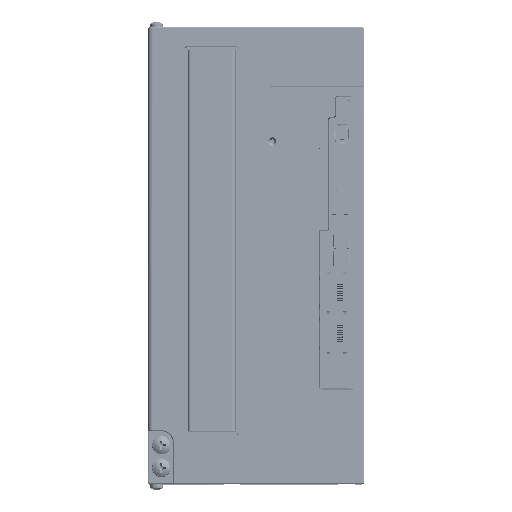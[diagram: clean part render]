
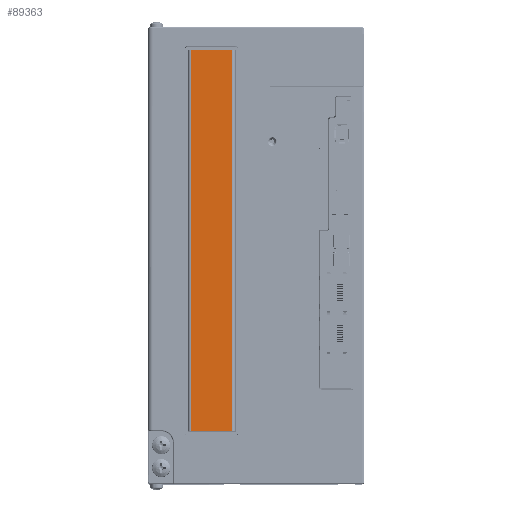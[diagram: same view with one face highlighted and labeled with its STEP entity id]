
A CAD part, top view. The second image highlights one B-rep face of the part: STEP entity #89363.
In plain terms, the highlighted planar face has unit normal (0, 0, 1).
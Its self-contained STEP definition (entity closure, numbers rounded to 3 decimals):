
#37195 = EDGE_CURVE ( 'NONE', #104793, #223532, #258459, .T. ) ;
#43177 = EDGE_CURVE ( 'NONE', #223532, #128426, #360696, .T. ) ;
#64901 = LINE ( 'NONE', #326250, #205746 ) ;
#68721 = VECTOR ( 'NONE', #309329, 1000. ) ;
#75670 = FACE_OUTER_BOUND ( 'NONE', #349316, .T. ) ;
#75963 = ORIENTED_EDGE ( 'NONE', *, *, #43177, .T. ) ;
#79833 = CARTESIAN_POINT ( 'NONE',  ( 36.15, 23., 194.2 ) ) ;
#89363 = ADVANCED_FACE ( 'NONE', ( #75670 ), #359729, .F. ) ;
#89530 = VERTEX_POINT ( 'NONE', #182560 ) ;
#99656 = DIRECTION ( 'NONE',  ( 0., 1., 0. ) ) ;
#102032 = DIRECTION ( 'NONE',  ( 0., 0., -1. ) ) ;
#104793 = VERTEX_POINT ( 'NONE', #182217 ) ;
#104884 = DIRECTION ( 'NONE',  ( -1., 0., 0. ) ) ;
#117392 = AXIS2_PLACEMENT_3D ( 'NONE', #190387, #102032, #216726 ) ;
#118594 = CARTESIAN_POINT ( 'NONE',  ( 36.15, 190., 194.2 ) ) ;
#128426 = VERTEX_POINT ( 'NONE', #323057 ) ;
#182217 = CARTESIAN_POINT ( 'NONE',  ( 36.15, 23., 194.2 ) ) ;
#182458 = LINE ( 'NONE', #212504, #313089 ) ;
#182560 = CARTESIAN_POINT ( 'NONE',  ( 18.05, 23., 194.2 ) ) ;
#183312 = DIRECTION ( 'NONE',  ( -1., 0., 0. ) ) ;
#190387 = CARTESIAN_POINT ( 'NONE',  ( 36.15, 23., 194.2 ) ) ;
#205746 = VECTOR ( 'NONE', #183312, 1000. ) ;
#207423 = EDGE_CURVE ( 'NONE', #89530, #128426, #182458, .T. ) ;
#212504 = CARTESIAN_POINT ( 'NONE',  ( 18.05, 23., 194.2 ) ) ;
#216726 = DIRECTION ( 'NONE',  ( 0., -1., 0. ) ) ;
#223532 = VERTEX_POINT ( 'NONE', #118594 ) ;
#251468 = CARTESIAN_POINT ( 'NONE',  ( 36.15, 190., 194.2 ) ) ;
#258459 = LINE ( 'NONE', #79833, #68721 ) ;
#267319 = VECTOR ( 'NONE', #104884, 1000. ) ;
#270354 = ORIENTED_EDGE ( 'NONE', *, *, #292828, .F. ) ;
#270794 = ORIENTED_EDGE ( 'NONE', *, *, #37195, .T. ) ;
#292828 = EDGE_CURVE ( 'NONE', #104793, #89530, #64901, .T. ) ;
#309329 = DIRECTION ( 'NONE',  ( 0., 1., 0. ) ) ;
#313089 = VECTOR ( 'NONE', #99656, 1000. ) ;
#323057 = CARTESIAN_POINT ( 'NONE',  ( 18.05, 190., 194.2 ) ) ;
#326250 = CARTESIAN_POINT ( 'NONE',  ( 36.15, 23., 194.2 ) ) ;
#349316 = EDGE_LOOP ( 'NONE', ( #75963, #351129, #270354, #270794 ) ) ;
#351129 = ORIENTED_EDGE ( 'NONE', *, *, #207423, .F. ) ;
#359729 = PLANE ( 'NONE',  #117392 ) ;
#360696 = LINE ( 'NONE', #251468, #267319 ) ;
